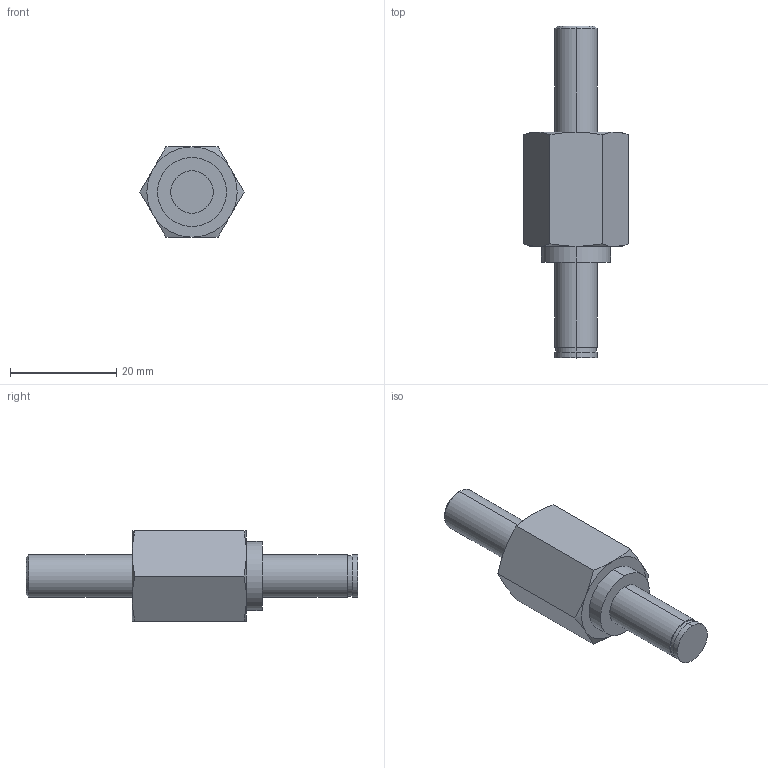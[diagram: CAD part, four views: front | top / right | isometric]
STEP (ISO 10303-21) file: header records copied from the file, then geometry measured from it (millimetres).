
FILE_DESCRIPTION (( 'STEP AP203' ), '1' );
FILE_NAME ('084.810.007.STEP', '2015-02-11T08:41:50', ( '' ), ( '' ), 'SwSTEP 2.0', 'SolidWorks 2012', '' );
FILE_SCHEMA (( 'CONFIG_CONTROL_DESIGN' ));
Length unit declared in the file: millimetre
Products named in the file (1): 084.810.007
Bounding box: 19.63 x 62.5 x 17 mm (x, y, z)
Volume: 7675.2 mm3; surface area: 2828.9 mm2
Topology: 1 solids, 1 shells, 37 faces, 76 edges, 46 vertices
Faces by surface type: cone 14, plane 13, cylinder 10
Entity records: 1121 total; most frequent: CARTESIAN_POINT 280, DIRECTION 162, ORIENTED_EDGE 152, EDGE_CURVE 76, AXIS2_PLACEMENT_3D 72, VERTEX_POINT 46, EDGE_LOOP 42, ADVANCED_FACE 37
